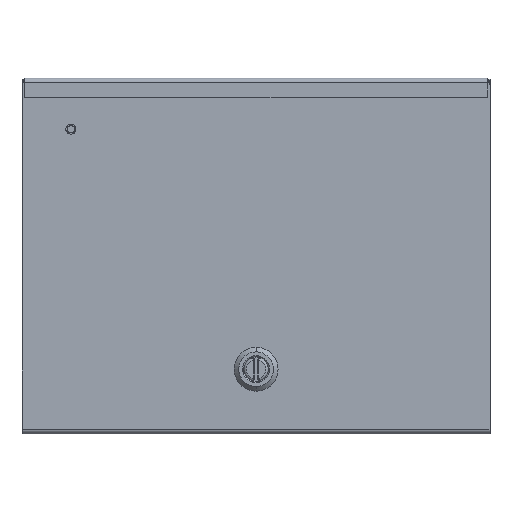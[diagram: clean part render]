
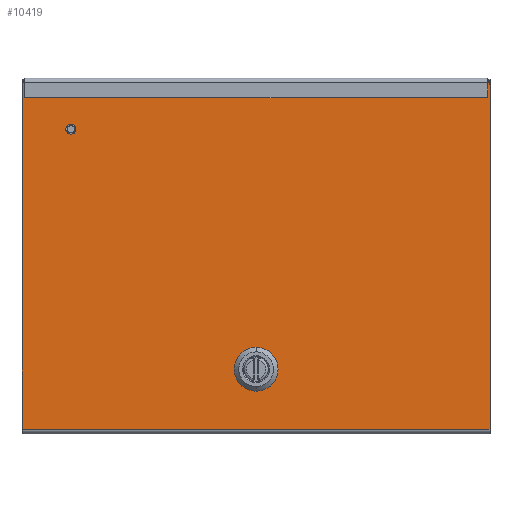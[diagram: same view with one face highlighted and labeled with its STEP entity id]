
A CAD part, top view. The second image highlights one B-rep face of the part: STEP entity #10419.
In plain terms, the highlighted planar face has unit normal (0, 0, 1).
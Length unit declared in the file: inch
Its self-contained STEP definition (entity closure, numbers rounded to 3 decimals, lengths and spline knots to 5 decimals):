
#9152=CARTESIAN_POINT('',(-5.875,4.40625,0.));
#9153=DIRECTION('',(0.,0.,1.));
#9154=DIRECTION('',(0.,1.,0.));
#9155=AXIS2_PLACEMENT_3D('',#9152,#9153,#9154);
#9160=DIRECTION('',(1.,0.,0.));
#9161=VECTOR('',#9160,0.37009);
#9162=CARTESIAN_POINT('',(-5.875,4.53125,0.));
#9163=LINE('',#9162,#9161);
#9167=DIRECTION('',(0.174,-0.985,0.));
#9168=VECTOR('',#9167,0.12185);
#9169=CARTESIAN_POINT('',(-5.50491,4.53125,0.));
#9170=LINE('',#9169,#9168);
#9174=DIRECTION('',(-1.,0.,0.));
#9175=VECTOR('',#9174,0.015);
#9176=CARTESIAN_POINT('',(-5.46875,4.41125,0.));
#9177=LINE('',#9176,#9175);
#9181=DIRECTION('',(1.,0.,0.));
#9182=VECTOR('',#9181,0.015);
#9183=CARTESIAN_POINT('',(5.46875,4.41125,0.));
#9184=LINE('',#9183,#9182);
#9188=DIRECTION('',(-0.174,-0.985,0.));
#9189=VECTOR('',#9188,0.12185);
#9190=CARTESIAN_POINT('',(5.50491,4.53125,0.));
#9191=LINE('',#9190,#9189);
#9195=DIRECTION('',(1.,0.,0.));
#9196=VECTOR('',#9195,0.37009);
#9197=CARTESIAN_POINT('',(5.50491,4.53125,0.));
#9198=LINE('',#9197,#9196);
#9202=CARTESIAN_POINT('',(5.875,4.40625,0.));
#9203=DIRECTION('',(0.,0.,1.));
#9204=DIRECTION('',(1.,0.,0.));
#9205=AXIS2_PLACEMENT_3D('',#9202,#9203,#9204);
#9210=DIRECTION('',(0.,-1.,0.));
#9211=VECTOR('',#9210,8.8175);
#9212=CARTESIAN_POINT('',(6.,4.40625,0.));
#9213=LINE('',#9212,#9211);
#9217=DIRECTION('',(0.,1.,0.));
#9218=VECTOR('',#9217,8.8175);
#9219=CARTESIAN_POINT('',(-6.,-4.41125,0.));
#9220=LINE('',#9219,#9218);
#9224=DIRECTION('',(1.,0.,0.));
#9225=VECTOR('',#9224,0.39715);
#9226=CARTESIAN_POINT('',(-0.19858,-2.47925,0.));
#9227=LINE('',#9226,#9225);
#9231=CARTESIAN_POINT('',(0.,-2.87525,0.));
#9232=DIRECTION('',(0.,0.,1.));
#9233=DIRECTION('',(-0.448,0.894,0.));
#9234=AXIS2_PLACEMENT_3D('',#9231,#9232,#9233);
#9239=DIRECTION('',(0.,1.,0.));
#9240=VECTOR('',#9239,0.39715);
#9241=CARTESIAN_POINT('',(-0.396,-3.07383,0.));
#9242=LINE('',#9241,#9240);
#9246=CARTESIAN_POINT('',(0.,-2.87525,0.));
#9247=DIRECTION('',(0.,0.,1.));
#9248=DIRECTION('',(-0.894,-0.448,0.));
#9249=AXIS2_PLACEMENT_3D('',#9246,#9247,#9248);
#9254=DIRECTION('',(-1.,0.,0.));
#9255=VECTOR('',#9254,0.39715);
#9256=CARTESIAN_POINT('',(0.19858,-3.27125,0.));
#9257=LINE('',#9256,#9255);
#9261=CARTESIAN_POINT('',(0.,-2.87525,0.));
#9262=DIRECTION('',(0.,0.,1.));
#9263=DIRECTION('',(0.448,-0.894,0.));
#9264=AXIS2_PLACEMENT_3D('',#9261,#9262,#9263);
#9269=DIRECTION('',(0.,-1.,0.));
#9270=VECTOR('',#9269,0.39715);
#9271=CARTESIAN_POINT('',(0.396,-2.67667,0.));
#9272=LINE('',#9271,#9270);
#9276=CARTESIAN_POINT('',(0.,-2.87525,0.));
#9277=DIRECTION('',(0.,0.,1.));
#9278=DIRECTION('',(0.894,0.448,0.));
#9279=AXIS2_PLACEMENT_3D('',#9276,#9277,#9278);
#9284=CARTESIAN_POINT('',(-4.75,3.28125,0.));
#9285=DIRECTION('',(0.,0.,1.));
#9286=DIRECTION('',(-1.,0.,0.));
#9287=AXIS2_PLACEMENT_3D('',#9284,#9285,#9286);
#9292=CARTESIAN_POINT('',(-4.75,3.28125,0.));
#9293=DIRECTION('',(0.,0.,1.));
#9294=DIRECTION('',(1.,0.,0.));
#9295=AXIS2_PLACEMENT_3D('',#9292,#9293,#9294);
#9336=DIRECTION('',(-1.,0.,0.));
#9337=VECTOR('',#9336,12.);
#9338=CARTESIAN_POINT('',(6.,-4.41125,0.));
#9339=LINE('',#9338,#9337);
#9881=DIRECTION('',(1.,0.,0.));
#9882=VECTOR('',#9881,10.9375);
#9883=CARTESIAN_POINT('',(-5.46875,4.41125,0.));
#9884=LINE('',#9883,#9882);
#10204=CARTESIAN_POINT('',(5.46875,4.41125,0.));
#10205=CARTESIAN_POINT('',(5.48375,4.41125,0.));
#10206=VERTEX_POINT('',#10204);
#10207=VERTEX_POINT('',#10205);
#10208=CARTESIAN_POINT('',(5.50491,4.53125,0.));
#10209=VERTEX_POINT('',#10208);
#10216=CARTESIAN_POINT('',(-5.46875,4.41125,0.));
#10217=CARTESIAN_POINT('',(-5.48375,4.41125,0.));
#10218=VERTEX_POINT('',#10216);
#10219=VERTEX_POINT('',#10217);
#10220=CARTESIAN_POINT('',(-5.50491,4.53125,0.));
#10221=VERTEX_POINT('',#10220);
#10232=CARTESIAN_POINT('',(-6.,-4.41125,0.));
#10233=VERTEX_POINT('',#10232);
#10234=CARTESIAN_POINT('',(6.,-4.41125,0.));
#10235=VERTEX_POINT('',#10234);
#10252=CARTESIAN_POINT('',(-5.875,4.53125,0.));
#10253=CARTESIAN_POINT('',(-6.,4.40625,0.));
#10254=VERTEX_POINT('',#10252);
#10255=VERTEX_POINT('',#10253);
#10276=CARTESIAN_POINT('',(6.,4.40625,0.));
#10277=CARTESIAN_POINT('',(5.875,4.53125,0.));
#10278=VERTEX_POINT('',#10276);
#10279=VERTEX_POINT('',#10277);
#10324=CARTESIAN_POINT('',(-0.19858,-2.47925,0.));
#10325=CARTESIAN_POINT('',(0.19858,-2.47925,0.));
#10326=VERTEX_POINT('',#10324);
#10327=VERTEX_POINT('',#10325);
#10328=CARTESIAN_POINT('',(0.396,-2.67667,0.));
#10329=VERTEX_POINT('',#10328);
#10330=CARTESIAN_POINT('',(0.396,-3.07383,0.));
#10331=VERTEX_POINT('',#10330);
#10332=CARTESIAN_POINT('',(0.19858,-3.27125,0.));
#10333=VERTEX_POINT('',#10332);
#10334=CARTESIAN_POINT('',(-0.19858,-3.27125,0.));
#10335=VERTEX_POINT('',#10334);
#10336=CARTESIAN_POINT('',(-0.396,-3.07383,0.));
#10337=VERTEX_POINT('',#10336);
#10338=CARTESIAN_POINT('',(-0.396,-2.67667,0.));
#10339=VERTEX_POINT('',#10338);
#10356=CARTESIAN_POINT('',(-4.84655,3.28125,0.));
#10357=CARTESIAN_POINT('',(-4.65345,3.28125,0.));
#10358=VERTEX_POINT('',#10356);
#10359=VERTEX_POINT('',#10357);
#10364=CARTESIAN_POINT('',(0.,0.,0.));
#10365=DIRECTION('',(0.,0.,1.));
#10366=DIRECTION('',(1.,0.,0.));
#10367=AXIS2_PLACEMENT_3D('',#10364,#10365,#10366);
#10368=PLANE('',#10367);
#10370=ORIENTED_EDGE('',*,*,#10369,.F.);
#10372=ORIENTED_EDGE('',*,*,#10371,.T.);
#10374=ORIENTED_EDGE('',*,*,#10373,.T.);
#10376=ORIENTED_EDGE('',*,*,#10375,.F.);
#10378=ORIENTED_EDGE('',*,*,#10377,.T.);
#10380=ORIENTED_EDGE('',*,*,#10379,.T.);
#10382=ORIENTED_EDGE('',*,*,#10381,.F.);
#10384=ORIENTED_EDGE('',*,*,#10383,.T.);
#10386=ORIENTED_EDGE('',*,*,#10385,.F.);
#10388=ORIENTED_EDGE('',*,*,#10387,.T.);
#10390=ORIENTED_EDGE('',*,*,#10389,.T.);
#10392=ORIENTED_EDGE('',*,*,#10391,.T.);
#10393=EDGE_LOOP('',(#10370,#10372,#10374,#10376,#10378,#10380,#10382,#10384,
#10386,#10388,#10390,#10392));
#10394=FACE_OUTER_BOUND('',#10393,.F.);
#10396=ORIENTED_EDGE('',*,*,#10395,.F.);
#10398=ORIENTED_EDGE('',*,*,#10397,.T.);
#10400=ORIENTED_EDGE('',*,*,#10399,.F.);
#10402=ORIENTED_EDGE('',*,*,#10401,.T.);
#10404=ORIENTED_EDGE('',*,*,#10403,.F.);
#10406=ORIENTED_EDGE('',*,*,#10405,.T.);
#10408=ORIENTED_EDGE('',*,*,#10407,.F.);
#10410=ORIENTED_EDGE('',*,*,#10409,.T.);
#10411=EDGE_LOOP('',(#10396,#10398,#10400,#10402,#10404,#10406,#10408,#10410));
#10412=FACE_BOUND('',#10411,.F.);
#10414=ORIENTED_EDGE('',*,*,#10413,.T.);
#10416=ORIENTED_EDGE('',*,*,#10415,.T.);
#10417=EDGE_LOOP('',(#10414,#10416));
#10418=FACE_BOUND('',#10417,.F.);
#9156=CIRCLE('',#9155,0.125);
#9206=CIRCLE('',#9205,0.125);
#9235=CIRCLE('',#9234,0.443);
#9250=CIRCLE('',#9249,0.443);
#9265=CIRCLE('',#9264,0.443);
#9280=CIRCLE('',#9279,0.443);
#9288=CIRCLE('',#9287,0.09655);
#9296=CIRCLE('',#9295,0.09655);
#10369=EDGE_CURVE('',#10254,#10255,#9156,.T.);
#10371=EDGE_CURVE('',#10254,#10221,#9163,.T.);
#10373=EDGE_CURVE('',#10221,#10219,#9170,.T.);
#10375=EDGE_CURVE('',#10218,#10219,#9177,.T.);
#10377=EDGE_CURVE('',#10218,#10206,#9884,.T.);
#10379=EDGE_CURVE('',#10206,#10207,#9184,.T.);
#10381=EDGE_CURVE('',#10209,#10207,#9191,.T.);
#10383=EDGE_CURVE('',#10209,#10279,#9198,.T.);
#10385=EDGE_CURVE('',#10278,#10279,#9206,.T.);
#10387=EDGE_CURVE('',#10278,#10235,#9213,.T.);
#10389=EDGE_CURVE('',#10235,#10233,#9339,.T.);
#10391=EDGE_CURVE('',#10233,#10255,#9220,.T.);
#10395=EDGE_CURVE('',#10326,#10327,#9227,.T.);
#10397=EDGE_CURVE('',#10326,#10339,#9235,.T.);
#10399=EDGE_CURVE('',#10337,#10339,#9242,.T.);
#10401=EDGE_CURVE('',#10337,#10335,#9250,.T.);
#10403=EDGE_CURVE('',#10333,#10335,#9257,.T.);
#10405=EDGE_CURVE('',#10333,#10331,#9265,.T.);
#10407=EDGE_CURVE('',#10329,#10331,#9272,.T.);
#10409=EDGE_CURVE('',#10329,#10327,#9280,.T.);
#10413=EDGE_CURVE('',#10358,#10359,#9288,.T.);
#10415=EDGE_CURVE('',#10359,#10358,#9296,.T.);
#10419=ADVANCED_FACE('',(#10394,#10412,#10418),#10368,.T.);
